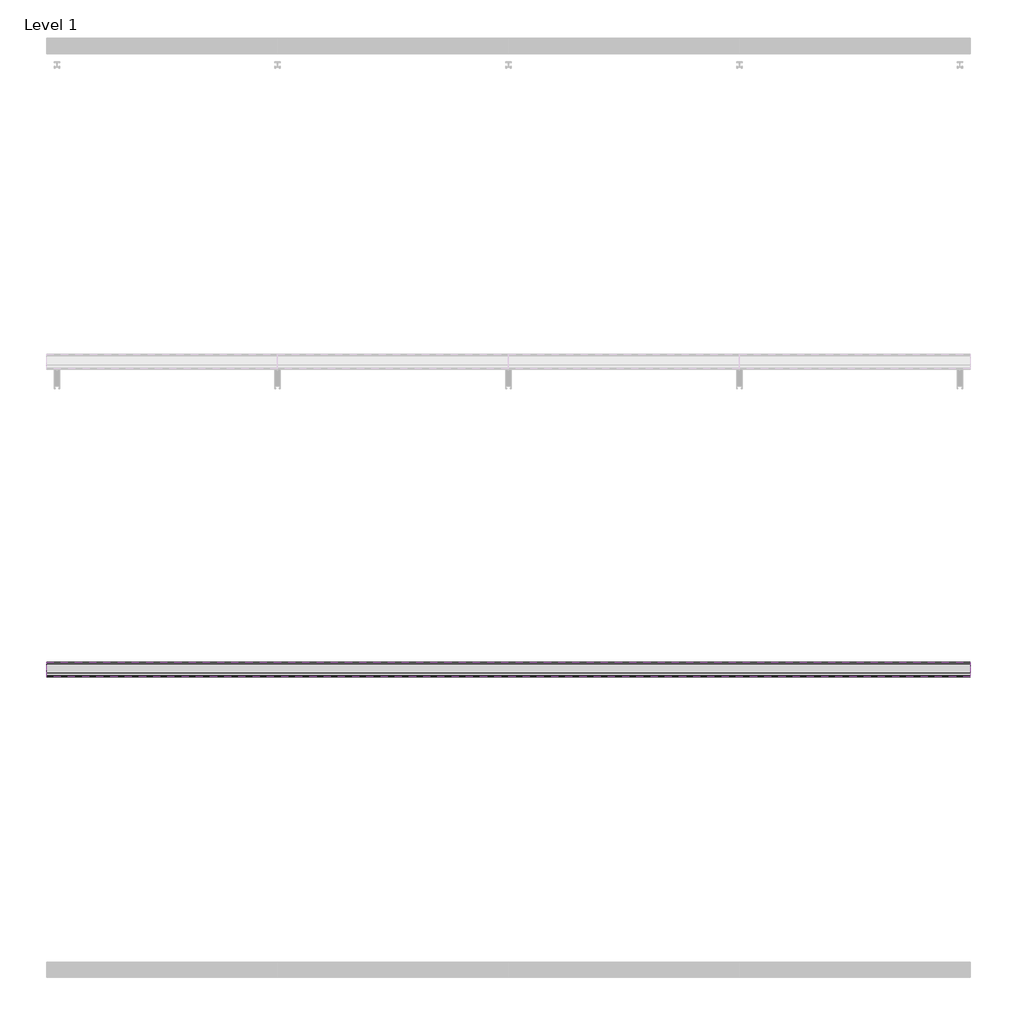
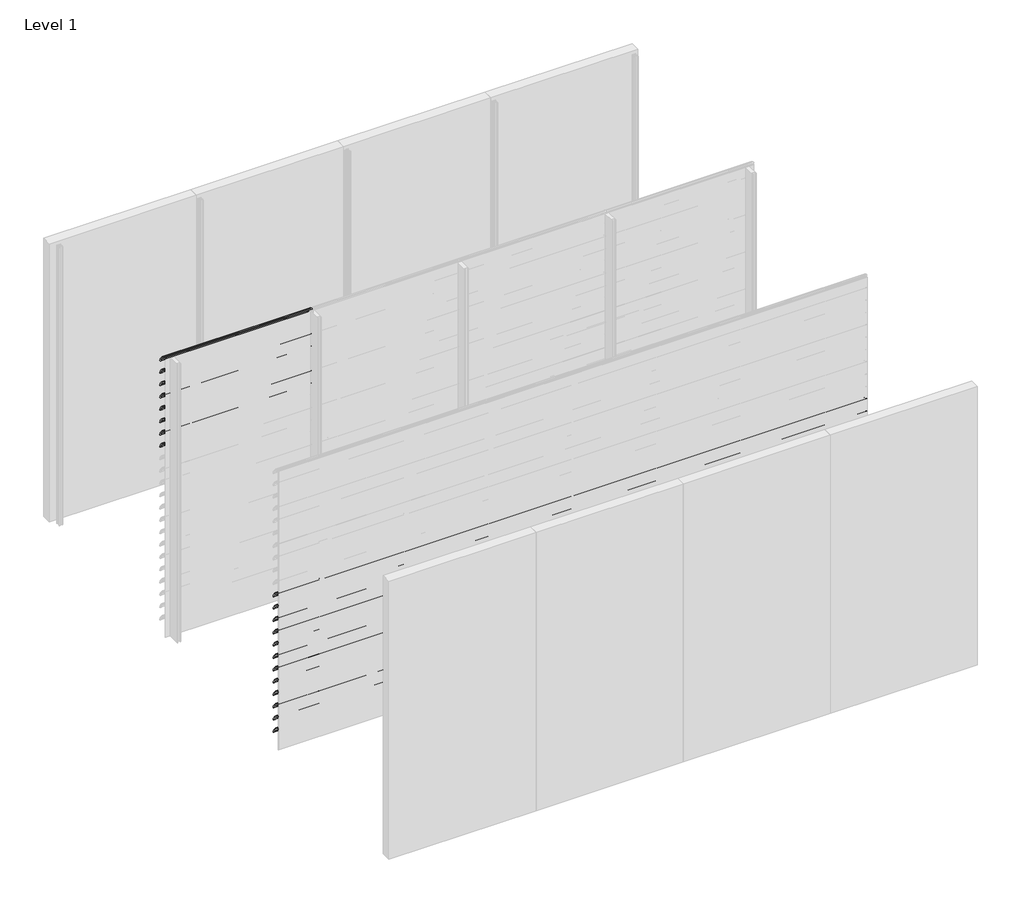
# One storey, part 9 of 57: 20 proxies.
"""IFC4 building model written with IfcOpenShell, lengths in millimetres."""

from ifc_helpers import new_model, si_unit, point, frame, frame_2d, origin, place, context, project, spatial, polyline, circle_curve, trimmed, segment, composite_curve, outline, extrude, element, save

model = new_model("IFC4")

# Units and contexts
model_context = context("Model", 3, world=origin())
ifc_project = project(units=[si_unit("LENGTHUNIT", "METRE", prefix="MILLI")], contexts=[model_context])

# Site, building, storey
site = spatial("IfcSite", under=ifc_project)
building = spatial("IfcBuilding", under=site)
storey = spatial("IfcBuildingStorey", under=building, Name="Level 1", Elevation=0.0)

# Proxies
placement = place(None, origin())
element("IfcBuildingElementProxy", 1, Name="Wall Sweeps", at=placement, inside=storey, context=model_context, shape_type="SweptSolid", body=[
    extrude(outline(composite_curve([segment(trimmed(circle_curve(frame_2d((-47993.7822526, 3016.4913792)), 4.2177474), [point((-47989.6985606, 3017.5462976))], [point((-47993.7822526, 3020.7091266))], False, "CARTESIAN"), True, "CONTINUOUS"), segment(trimmed(circle_curve(frame_2d((-48018.7150834, 2918.2536312)), 105.4456002), [point((-47993.7822526, 3020.7091266))], [point((-47971.7914298, 3012.6832099))], False, "CARTESIAN"), True, "CONTINUOUS"), segment(trimmed(circle_curve(frame_2d((-48061.7199745, 2864.0352476)), 173.7335887), [point((-47971.7914298, 3012.6832099))], [point((-47913.0720121, 2953.9637922))], False, "CARTESIAN"), True, "CONTINUOUS"), segment(trimmed(circle_curve(frame_2d((-48004.9297178, 2902.1860314)), 105.4456002), [point((-47913.0720121, 2953.9637922))], [point((-47903.6249616, 2931.4455765))], False, "CARTESIAN"), True, "CONTINUOUS"), segment(trimmed(circle_curve(frame_2d((-47907.809737, 2930.3307305)), 4.3307305), [point((-47903.6249616, 2931.4455765))], [point((-47909.0769196, 2926.189538))], False, "CARTESIAN"), True, "CONTINUOUS"), segment(polyline([(-47909.0769196, 2926.189538), (-47934.7401984, 2950.9722783)]), True, "CONTINUOUS"), segment(trimmed(circle_curve(frame_2d((-47931.3879574, 2953.2977626)), 4.079877), [point((-47934.7401984, 2950.9722783))], [point((-47930.7310597, 2957.3244091))], False, "CARTESIAN"), True, "CONTINUOUS"), segment(trimmed(circle_curve(frame_2d((-48014.6665585, 2935.2544323)), 86.7885467), [point((-47930.7310597, 2957.3244091))], [point((-47942.3028351, 2983.1683485))], True, "CARTESIAN"), True, "CONTINUOUS"), segment(polyline([(-47942.3028351, 2983.1683485), (-47940.7230099, 2985.9046861)]), True, "CONTINUOUS"), segment(trimmed(circle_curve(frame_2d((-48061.7199745, 2864.0352476)), 171.7335887), [point((-47940.7230099, 2985.9046861))], [point((-47972.7555872, 3010.9289618))], True, "CARTESIAN"), True, "CONTINUOUS"), segment(trimmed(circle_curve(frame_2d((-48018.7150834, 2918.2536312)), 103.4456002), [point((-47972.7555872, 3010.9289618))], [point((-47989.6985606, 3017.5462976))], True, "CARTESIAN"), True, "CONTINUOUS")], self_intersect=False)), frame((0.0, 0.0, 0.0), z_axis=(1.0, 0.0, 0.0), x_axis=(0.0, 1.0, 0.0)), (0.0, 0.0, 1.0), 1500.0),
])
element("IfcBuildingElementProxy", 2, Name="Wall Sweeps", at=placement, inside=storey, context=model_context, shape_type="SweptSolid", body=[
    extrude(outline(composite_curve([segment(trimmed(circle_curve(frame_2d((-47993.7822526, 2883.4913792)), 4.2177474), [point((-47989.6985606, 2884.5462976))], [point((-47993.7822526, 2887.7091266))], False, "CARTESIAN"), True, "CONTINUOUS"), segment(trimmed(circle_curve(frame_2d((-48018.7150834, 2785.2536312)), 105.4456002), [point((-47993.7822526, 2887.7091266))], [point((-47971.7914298, 2879.6832099))], False, "CARTESIAN"), True, "CONTINUOUS"), segment(trimmed(circle_curve(frame_2d((-48061.7199745, 2731.0352476)), 173.7335887), [point((-47971.7914298, 2879.6832099))], [point((-47913.0720121, 2820.9637922))], False, "CARTESIAN"), True, "CONTINUOUS"), segment(trimmed(circle_curve(frame_2d((-48004.9297178, 2769.1860314)), 105.4456002), [point((-47913.0720121, 2820.9637922))], [point((-47903.6249616, 2798.4455765))], False, "CARTESIAN"), True, "CONTINUOUS"), segment(trimmed(circle_curve(frame_2d((-47907.809737, 2797.3307305)), 4.3307305), [point((-47903.6249616, 2798.4455765))], [point((-47909.0769196, 2793.189538))], False, "CARTESIAN"), True, "CONTINUOUS"), segment(polyline([(-47909.0769196, 2793.189538), (-47934.7401984, 2817.9722783)]), True, "CONTINUOUS"), segment(trimmed(circle_curve(frame_2d((-47931.3879574, 2820.2977626)), 4.079877), [point((-47934.7401984, 2817.9722783))], [point((-47930.7310597, 2824.3244091))], False, "CARTESIAN"), True, "CONTINUOUS"), segment(trimmed(circle_curve(frame_2d((-48014.6665585, 2802.2544323)), 86.7885467), [point((-47930.7310597, 2824.3244091))], [point((-47942.3028351, 2850.1683485))], True, "CARTESIAN"), True, "CONTINUOUS"), segment(polyline([(-47942.3028351, 2850.1683485), (-47940.7230099, 2852.9046861)]), True, "CONTINUOUS"), segment(trimmed(circle_curve(frame_2d((-48061.7199745, 2731.0352476)), 171.7335887), [point((-47940.7230099, 2852.9046861))], [point((-47972.7555872, 2877.9289618))], True, "CARTESIAN"), True, "CONTINUOUS"), segment(trimmed(circle_curve(frame_2d((-48018.7150834, 2785.2536312)), 103.4456002), [point((-47972.7555872, 2877.9289618))], [point((-47989.6985606, 2884.5462976))], True, "CARTESIAN"), True, "CONTINUOUS")], self_intersect=False)), frame((0.0, 0.0, 0.0), z_axis=(1.0, 0.0, 0.0), x_axis=(0.0, 1.0, 0.0)), (0.0, 0.0, 1.0), 1500.0),
])
element("IfcBuildingElementProxy", 3, Name="Wall Sweeps", at=placement, inside=storey, context=model_context, shape_type="SweptSolid", body=[
    extrude(outline(composite_curve([segment(trimmed(circle_curve(frame_2d((-47993.7822526, 2750.4913792)), 4.2177474), [point((-47989.6985606, 2751.5462976))], [point((-47993.7822526, 2754.7091266))], False, "CARTESIAN"), True, "CONTINUOUS"), segment(trimmed(circle_curve(frame_2d((-48018.7150834, 2652.2536312)), 105.4456002), [point((-47993.7822526, 2754.7091266))], [point((-47971.7914298, 2746.6832099))], False, "CARTESIAN"), True, "CONTINUOUS"), segment(trimmed(circle_curve(frame_2d((-48061.7199745, 2598.0352476)), 173.7335887), [point((-47971.7914298, 2746.6832099))], [point((-47913.0720121, 2687.9637922))], False, "CARTESIAN"), True, "CONTINUOUS"), segment(trimmed(circle_curve(frame_2d((-48004.9297178, 2636.1860314)), 105.4456002), [point((-47913.0720121, 2687.9637922))], [point((-47903.6249616, 2665.4455765))], False, "CARTESIAN"), True, "CONTINUOUS"), segment(trimmed(circle_curve(frame_2d((-47907.809737, 2664.3307305)), 4.3307305), [point((-47903.6249616, 2665.4455765))], [point((-47909.0769196, 2660.189538))], False, "CARTESIAN"), True, "CONTINUOUS"), segment(polyline([(-47909.0769196, 2660.189538), (-47934.7401984, 2684.9722783)]), True, "CONTINUOUS"), segment(trimmed(circle_curve(frame_2d((-47931.3879574, 2687.2977626)), 4.079877), [point((-47934.7401984, 2684.9722783))], [point((-47930.7310597, 2691.3244091))], False, "CARTESIAN"), True, "CONTINUOUS"), segment(trimmed(circle_curve(frame_2d((-48014.6665585, 2669.2544323)), 86.7885467), [point((-47930.7310597, 2691.3244091))], [point((-47942.3028351, 2717.1683485))], True, "CARTESIAN"), True, "CONTINUOUS"), segment(polyline([(-47942.3028351, 2717.1683485), (-47940.7230099, 2719.9046861)]), True, "CONTINUOUS"), segment(trimmed(circle_curve(frame_2d((-48061.7199745, 2598.0352476)), 171.7335887), [point((-47940.7230099, 2719.9046861))], [point((-47972.7555872, 2744.9289618))], True, "CARTESIAN"), True, "CONTINUOUS"), segment(trimmed(circle_curve(frame_2d((-48018.7150834, 2652.2536312)), 103.4456002), [point((-47972.7555872, 2744.9289618))], [point((-47989.6985606, 2751.5462976))], True, "CARTESIAN"), True, "CONTINUOUS")], self_intersect=False)), frame((0.0, 0.0, 0.0), z_axis=(1.0, 0.0, 0.0), x_axis=(0.0, 1.0, 0.0)), (0.0, 0.0, 1.0), 1500.0),
])
element("IfcBuildingElementProxy", 4, Name="Wall Sweeps", at=placement, inside=storey, context=model_context, shape_type="SweptSolid", body=[
    extrude(outline(composite_curve([segment(trimmed(circle_curve(frame_2d((-47993.7822526, 2617.4913792)), 4.2177474), [point((-47989.6985606, 2618.5462976))], [point((-47993.7822526, 2621.7091266))], False, "CARTESIAN"), True, "CONTINUOUS"), segment(trimmed(circle_curve(frame_2d((-48018.7150834, 2519.2536312)), 105.4456002), [point((-47993.7822526, 2621.7091266))], [point((-47971.7914298, 2613.6832099))], False, "CARTESIAN"), True, "CONTINUOUS"), segment(trimmed(circle_curve(frame_2d((-48061.7199745, 2465.0352476)), 173.7335887), [point((-47971.7914298, 2613.6832099))], [point((-47913.0720121, 2554.9637922))], False, "CARTESIAN"), True, "CONTINUOUS"), segment(trimmed(circle_curve(frame_2d((-48004.9297178, 2503.1860314)), 105.4456002), [point((-47913.0720121, 2554.9637922))], [point((-47903.6249616, 2532.4455765))], False, "CARTESIAN"), True, "CONTINUOUS"), segment(trimmed(circle_curve(frame_2d((-47907.809737, 2531.3307305)), 4.3307305), [point((-47903.6249616, 2532.4455765))], [point((-47909.0769196, 2527.189538))], False, "CARTESIAN"), True, "CONTINUOUS"), segment(polyline([(-47909.0769196, 2527.189538), (-47934.7401984, 2551.9722783)]), True, "CONTINUOUS"), segment(trimmed(circle_curve(frame_2d((-47931.3879574, 2554.2977626)), 4.079877), [point((-47934.7401984, 2551.9722783))], [point((-47930.7310597, 2558.3244091))], False, "CARTESIAN"), True, "CONTINUOUS"), segment(trimmed(circle_curve(frame_2d((-48014.6665585, 2536.2544323)), 86.7885467), [point((-47930.7310597, 2558.3244091))], [point((-47942.3028351, 2584.1683485))], True, "CARTESIAN"), True, "CONTINUOUS"), segment(polyline([(-47942.3028351, 2584.1683485), (-47940.7230099, 2586.9046861)]), True, "CONTINUOUS"), segment(trimmed(circle_curve(frame_2d((-48061.7199745, 2465.0352476)), 171.7335887), [point((-47940.7230099, 2586.9046861))], [point((-47972.7555872, 2611.9289618))], True, "CARTESIAN"), True, "CONTINUOUS"), segment(trimmed(circle_curve(frame_2d((-48018.7150834, 2519.2536312)), 103.4456002), [point((-47972.7555872, 2611.9289618))], [point((-47989.6985606, 2618.5462976))], True, "CARTESIAN"), True, "CONTINUOUS")], self_intersect=False)), frame((0.0, 0.0, 0.0), z_axis=(1.0, 0.0, 0.0), x_axis=(0.0, 1.0, 0.0)), (0.0, 0.0, 1.0), 1500.0),
])
element("IfcBuildingElementProxy", 5, Name="Wall Sweeps", at=placement, inside=storey, context=model_context, shape_type="SweptSolid", body=[
    extrude(outline(composite_curve([segment(trimmed(circle_curve(frame_2d((-47993.7822526, 2484.4913792)), 4.2177474), [point((-47989.6985606, 2485.5462976))], [point((-47993.7822526, 2488.7091266))], False, "CARTESIAN"), True, "CONTINUOUS"), segment(trimmed(circle_curve(frame_2d((-48018.7150834, 2386.2536312)), 105.4456002), [point((-47993.7822526, 2488.7091266))], [point((-47971.7914298, 2480.6832099))], False, "CARTESIAN"), True, "CONTINUOUS"), segment(trimmed(circle_curve(frame_2d((-48061.7199745, 2332.0352476)), 173.7335887), [point((-47971.7914298, 2480.6832099))], [point((-47913.0720121, 2421.9637922))], False, "CARTESIAN"), True, "CONTINUOUS"), segment(trimmed(circle_curve(frame_2d((-48004.9297178, 2370.1860314)), 105.4456002), [point((-47913.0720121, 2421.9637922))], [point((-47903.6249616, 2399.4455765))], False, "CARTESIAN"), True, "CONTINUOUS"), segment(trimmed(circle_curve(frame_2d((-47907.809737, 2398.3307305)), 4.3307305), [point((-47903.6249616, 2399.4455765))], [point((-47909.0769196, 2394.189538))], False, "CARTESIAN"), True, "CONTINUOUS"), segment(polyline([(-47909.0769196, 2394.189538), (-47934.7401984, 2418.9722783)]), True, "CONTINUOUS"), segment(trimmed(circle_curve(frame_2d((-47931.3879574, 2421.2977626)), 4.079877), [point((-47934.7401984, 2418.9722783))], [point((-47930.7310597, 2425.3244091))], False, "CARTESIAN"), True, "CONTINUOUS"), segment(trimmed(circle_curve(frame_2d((-48014.6665585, 2403.2544323)), 86.7885467), [point((-47930.7310597, 2425.3244091))], [point((-47942.3028351, 2451.1683485))], True, "CARTESIAN"), True, "CONTINUOUS"), segment(polyline([(-47942.3028351, 2451.1683485), (-47940.7230099, 2453.9046861)]), True, "CONTINUOUS"), segment(trimmed(circle_curve(frame_2d((-48061.7199745, 2332.0352476)), 171.7335887), [point((-47940.7230099, 2453.9046861))], [point((-47972.7555872, 2478.9289618))], True, "CARTESIAN"), True, "CONTINUOUS"), segment(trimmed(circle_curve(frame_2d((-48018.7150834, 2386.2536312)), 103.4456002), [point((-47972.7555872, 2478.9289618))], [point((-47989.6985606, 2485.5462976))], True, "CARTESIAN"), True, "CONTINUOUS")], self_intersect=False)), frame((0.0, 0.0, 0.0), z_axis=(1.0, 0.0, 0.0), x_axis=(0.0, 1.0, 0.0)), (0.0, 0.0, 1.0), 1500.0),
])
element("IfcBuildingElementProxy", 6, Name="Wall Sweeps", at=placement, inside=storey, context=model_context, shape_type="SweptSolid", body=[
    extrude(outline(composite_curve([segment(trimmed(circle_curve(frame_2d((-47993.7822526, 2351.4913792)), 4.2177474), [point((-47989.6985606, 2352.5462976))], [point((-47993.7822526, 2355.7091266))], False, "CARTESIAN"), True, "CONTINUOUS"), segment(trimmed(circle_curve(frame_2d((-48018.7150834, 2253.2536312)), 105.4456002), [point((-47993.7822526, 2355.7091266))], [point((-47971.7914298, 2347.6832099))], False, "CARTESIAN"), True, "CONTINUOUS"), segment(trimmed(circle_curve(frame_2d((-48061.7199745, 2199.0352476)), 173.7335887), [point((-47971.7914298, 2347.6832099))], [point((-47913.0720121, 2288.9637922))], False, "CARTESIAN"), True, "CONTINUOUS"), segment(trimmed(circle_curve(frame_2d((-48004.9297178, 2237.1860314)), 105.4456002), [point((-47913.0720121, 2288.9637922))], [point((-47903.6249616, 2266.4455765))], False, "CARTESIAN"), True, "CONTINUOUS"), segment(trimmed(circle_curve(frame_2d((-47907.809737, 2265.3307305)), 4.3307305), [point((-47903.6249616, 2266.4455765))], [point((-47909.0769196, 2261.189538))], False, "CARTESIAN"), True, "CONTINUOUS"), segment(polyline([(-47909.0769196, 2261.189538), (-47934.7401984, 2285.9722783)]), True, "CONTINUOUS"), segment(trimmed(circle_curve(frame_2d((-47931.3879574, 2288.2977626)), 4.079877), [point((-47934.7401984, 2285.9722783))], [point((-47930.7310597, 2292.3244091))], False, "CARTESIAN"), True, "CONTINUOUS"), segment(trimmed(circle_curve(frame_2d((-48014.6665585, 2270.2544323)), 86.7885467), [point((-47930.7310597, 2292.3244091))], [point((-47942.3028351, 2318.1683485))], True, "CARTESIAN"), True, "CONTINUOUS"), segment(polyline([(-47942.3028351, 2318.1683485), (-47940.7230099, 2320.9046861)]), True, "CONTINUOUS"), segment(trimmed(circle_curve(frame_2d((-48061.7199745, 2199.0352476)), 171.7335887), [point((-47940.7230099, 2320.9046861))], [point((-47972.7555872, 2345.9289618))], True, "CARTESIAN"), True, "CONTINUOUS"), segment(trimmed(circle_curve(frame_2d((-48018.7150834, 2253.2536312)), 103.4456002), [point((-47972.7555872, 2345.9289618))], [point((-47989.6985606, 2352.5462976))], True, "CARTESIAN"), True, "CONTINUOUS")], self_intersect=False)), frame((0.0, 0.0, 0.0), z_axis=(1.0, 0.0, 0.0), x_axis=(0.0, 1.0, 0.0)), (0.0, 0.0, 1.0), 1500.0),
])
element("IfcBuildingElementProxy", 7, Name="Wall Sweeps", at=placement, inside=storey, context=model_context, shape_type="SweptSolid", body=[
    extrude(outline(composite_curve([segment(trimmed(circle_curve(frame_2d((-47993.7822526, 2218.4913792)), 4.2177474), [point((-47989.6985606, 2219.5462976))], [point((-47993.7822526, 2222.7091266))], False, "CARTESIAN"), True, "CONTINUOUS"), segment(trimmed(circle_curve(frame_2d((-48018.7150834, 2120.2536312)), 105.4456002), [point((-47993.7822526, 2222.7091266))], [point((-47971.7914298, 2214.6832099))], False, "CARTESIAN"), True, "CONTINUOUS"), segment(trimmed(circle_curve(frame_2d((-48061.7199745, 2066.0352476)), 173.7335887), [point((-47971.7914298, 2214.6832099))], [point((-47913.0720121, 2155.9637922))], False, "CARTESIAN"), True, "CONTINUOUS"), segment(trimmed(circle_curve(frame_2d((-48004.9297178, 2104.1860314)), 105.4456002), [point((-47913.0720121, 2155.9637922))], [point((-47903.6249616, 2133.4455765))], False, "CARTESIAN"), True, "CONTINUOUS"), segment(trimmed(circle_curve(frame_2d((-47907.809737, 2132.3307305)), 4.3307305), [point((-47903.6249616, 2133.4455765))], [point((-47909.0769196, 2128.189538))], False, "CARTESIAN"), True, "CONTINUOUS"), segment(polyline([(-47909.0769196, 2128.189538), (-47934.7401984, 2152.9722783)]), True, "CONTINUOUS"), segment(trimmed(circle_curve(frame_2d((-47931.3879574, 2155.2977626)), 4.079877), [point((-47934.7401984, 2152.9722783))], [point((-47930.7310597, 2159.3244091))], False, "CARTESIAN"), True, "CONTINUOUS"), segment(trimmed(circle_curve(frame_2d((-48014.6665585, 2137.2544323)), 86.7885467), [point((-47930.7310597, 2159.3244091))], [point((-47942.3028351, 2185.1683485))], True, "CARTESIAN"), True, "CONTINUOUS"), segment(polyline([(-47942.3028351, 2185.1683485), (-47940.7230099, 2187.9046861)]), True, "CONTINUOUS"), segment(trimmed(circle_curve(frame_2d((-48061.7199745, 2066.0352476)), 171.7335887), [point((-47940.7230099, 2187.9046861))], [point((-47972.7555872, 2212.9289618))], True, "CARTESIAN"), True, "CONTINUOUS"), segment(trimmed(circle_curve(frame_2d((-48018.7150834, 2120.2536312)), 103.4456002), [point((-47972.7555872, 2212.9289618))], [point((-47989.6985606, 2219.5462976))], True, "CARTESIAN"), True, "CONTINUOUS")], self_intersect=False)), frame((0.0, 0.0, 0.0), z_axis=(1.0, 0.0, 0.0), x_axis=(0.0, 1.0, 0.0)), (0.0, 0.0, 1.0), 1500.0),
])
element("IfcBuildingElementProxy", 8, Name="Wall Sweeps", at=placement, inside=storey, context=model_context, shape_type="SweptSolid", body=[
    extrude(outline(composite_curve([segment(trimmed(circle_curve(frame_2d((-47993.7822526, 2085.4913792)), 4.2177474), [point((-47989.6985606, 2086.5462976))], [point((-47993.7822526, 2089.7091266))], False, "CARTESIAN"), True, "CONTINUOUS"), segment(trimmed(circle_curve(frame_2d((-48018.7150834, 1987.2536312)), 105.4456002), [point((-47993.7822526, 2089.7091266))], [point((-47971.7914298, 2081.6832099))], False, "CARTESIAN"), True, "CONTINUOUS"), segment(trimmed(circle_curve(frame_2d((-48061.7199745, 1933.0352476)), 173.7335887), [point((-47971.7914298, 2081.6832099))], [point((-47913.0720121, 2022.9637922))], False, "CARTESIAN"), True, "CONTINUOUS"), segment(trimmed(circle_curve(frame_2d((-48004.9297178, 1971.1860314)), 105.4456002), [point((-47913.0720121, 2022.9637922))], [point((-47903.6249616, 2000.4455765))], False, "CARTESIAN"), True, "CONTINUOUS"), segment(trimmed(circle_curve(frame_2d((-47907.809737, 1999.3307305)), 4.3307305), [point((-47903.6249616, 2000.4455765))], [point((-47909.0769196, 1995.189538))], False, "CARTESIAN"), True, "CONTINUOUS"), segment(polyline([(-47909.0769196, 1995.189538), (-47934.7401984, 2019.9722783)]), True, "CONTINUOUS"), segment(trimmed(circle_curve(frame_2d((-47931.3879574, 2022.2977626)), 4.079877), [point((-47934.7401984, 2019.9722783))], [point((-47930.7310597, 2026.3244091))], False, "CARTESIAN"), True, "CONTINUOUS"), segment(trimmed(circle_curve(frame_2d((-48014.6665585, 2004.2544323)), 86.7885467), [point((-47930.7310597, 2026.3244091))], [point((-47942.3028351, 2052.1683485))], True, "CARTESIAN"), True, "CONTINUOUS"), segment(polyline([(-47942.3028351, 2052.1683485), (-47940.7230099, 2054.9046861)]), True, "CONTINUOUS"), segment(trimmed(circle_curve(frame_2d((-48061.7199745, 1933.0352476)), 171.7335887), [point((-47940.7230099, 2054.9046861))], [point((-47972.7555872, 2079.9289618))], True, "CARTESIAN"), True, "CONTINUOUS"), segment(trimmed(circle_curve(frame_2d((-48018.7150834, 1987.2536312)), 103.4456002), [point((-47972.7555872, 2079.9289618))], [point((-47989.6985606, 2086.5462976))], True, "CARTESIAN"), True, "CONTINUOUS")], self_intersect=False)), frame((0.0, 0.0, 0.0), z_axis=(1.0, 0.0, 0.0), x_axis=(0.0, 1.0, 0.0)), (0.0, 0.0, 1.0), 1500.0),
])
element("IfcBuildingElementProxy", 9, Name="Wall Sweeps", at=placement, inside=storey, context=model_context, shape_type="SweptSolid", body=[
    extrude(outline(composite_curve([segment(trimmed(circle_curve(frame_2d((-49993.7822526, 1686.4913792)), 4.2177474), [point((-49989.6985606, 1687.5462976))], [point((-49993.7822526, 1690.7091266))], False, "CARTESIAN"), True, "CONTINUOUS"), segment(trimmed(circle_curve(frame_2d((-50018.7150834, 1588.2536312)), 105.4456002), [point((-49993.7822526, 1690.7091266))], [point((-49971.7914298, 1682.6832099))], False, "CARTESIAN"), True, "CONTINUOUS"), segment(trimmed(circle_curve(frame_2d((-50061.7199745, 1534.0352476)), 173.7335887), [point((-49971.7914298, 1682.6832099))], [point((-49913.0720121, 1623.9637922))], False, "CARTESIAN"), True, "CONTINUOUS"), segment(trimmed(circle_curve(frame_2d((-50004.9297178, 1572.1860314)), 105.4456002), [point((-49913.0720121, 1623.9637922))], [point((-49903.6249616, 1601.4455765))], False, "CARTESIAN"), True, "CONTINUOUS"), segment(trimmed(circle_curve(frame_2d((-49907.809737, 1600.3307305)), 4.3307305), [point((-49903.6249616, 1601.4455765))], [point((-49909.0769196, 1596.189538))], False, "CARTESIAN"), True, "CONTINUOUS"), segment(polyline([(-49909.0769196, 1596.189538), (-49934.7401984, 1620.9722783)]), True, "CONTINUOUS"), segment(trimmed(circle_curve(frame_2d((-49931.3879574, 1623.2977626)), 4.079877), [point((-49934.7401984, 1620.9722783))], [point((-49930.7310597, 1627.3244091))], False, "CARTESIAN"), True, "CONTINUOUS"), segment(trimmed(circle_curve(frame_2d((-50014.6665585, 1605.2544323)), 86.7885467), [point((-49930.7310597, 1627.3244091))], [point((-49942.3028351, 1653.1683485))], True, "CARTESIAN"), True, "CONTINUOUS"), segment(polyline([(-49942.3028351, 1653.1683485), (-49940.7230099, 1655.9046861)]), True, "CONTINUOUS"), segment(trimmed(circle_curve(frame_2d((-50061.7199745, 1534.0352476)), 171.7335887), [point((-49940.7230099, 1655.9046861))], [point((-49972.7555872, 1680.9289618))], True, "CARTESIAN"), True, "CONTINUOUS"), segment(trimmed(circle_curve(frame_2d((-50018.7150834, 1588.2536312)), 103.4456002), [point((-49972.7555872, 1680.9289618))], [point((-49989.6985606, 1687.5462976))], True, "CARTESIAN"), True, "CONTINUOUS")], self_intersect=False)), frame((0.0, 0.0, 0.0), z_axis=(1.0, 0.0, 0.0), x_axis=(0.0, 1.0, 0.0)), (0.0, 0.0, 1.0), 6000.0),
])
element("IfcBuildingElementProxy", 10, Name="Wall Sweeps", at=placement, inside=storey, context=model_context, shape_type="SweptSolid", body=[
    extrude(outline(composite_curve([segment(trimmed(circle_curve(frame_2d((-49993.7822526, 1553.4913792)), 4.2177474), [point((-49989.6985606, 1554.5462976))], [point((-49993.7822526, 1557.7091266))], False, "CARTESIAN"), True, "CONTINUOUS"), segment(trimmed(circle_curve(frame_2d((-50018.7150834, 1455.2536312)), 105.4456002), [point((-49993.7822526, 1557.7091266))], [point((-49971.7914298, 1549.6832099))], False, "CARTESIAN"), True, "CONTINUOUS"), segment(trimmed(circle_curve(frame_2d((-50061.7199745, 1401.0352476)), 173.7335887), [point((-49971.7914298, 1549.6832099))], [point((-49913.0720121, 1490.9637922))], False, "CARTESIAN"), True, "CONTINUOUS"), segment(trimmed(circle_curve(frame_2d((-50004.9297178, 1439.1860314)), 105.4456002), [point((-49913.0720121, 1490.9637922))], [point((-49903.6249616, 1468.4455765))], False, "CARTESIAN"), True, "CONTINUOUS"), segment(trimmed(circle_curve(frame_2d((-49907.809737, 1467.3307305)), 4.3307305), [point((-49903.6249616, 1468.4455765))], [point((-49909.0769196, 1463.189538))], False, "CARTESIAN"), True, "CONTINUOUS"), segment(polyline([(-49909.0769196, 1463.189538), (-49934.7401984, 1487.9722783)]), True, "CONTINUOUS"), segment(trimmed(circle_curve(frame_2d((-49931.3879574, 1490.2977626)), 4.079877), [point((-49934.7401984, 1487.9722783))], [point((-49930.7310597, 1494.3244091))], False, "CARTESIAN"), True, "CONTINUOUS"), segment(trimmed(circle_curve(frame_2d((-50014.6665585, 1472.2544323)), 86.7885467), [point((-49930.7310597, 1494.3244091))], [point((-49942.3028351, 1520.1683485))], True, "CARTESIAN"), True, "CONTINUOUS"), segment(polyline([(-49942.3028351, 1520.1683485), (-49940.7230099, 1522.9046861)]), True, "CONTINUOUS"), segment(trimmed(circle_curve(frame_2d((-50061.7199745, 1401.0352476)), 171.7335887), [point((-49940.7230099, 1522.9046861))], [point((-49972.7555872, 1547.9289618))], True, "CARTESIAN"), True, "CONTINUOUS"), segment(trimmed(circle_curve(frame_2d((-50018.7150834, 1455.2536312)), 103.4456002), [point((-49972.7555872, 1547.9289618))], [point((-49989.6985606, 1554.5462976))], True, "CARTESIAN"), True, "CONTINUOUS")], self_intersect=False)), frame((0.0, 0.0, 0.0), z_axis=(1.0, 0.0, 0.0), x_axis=(0.0, 1.0, 0.0)), (0.0, 0.0, 1.0), 6000.0),
])
element("IfcBuildingElementProxy", 11, Name="Wall Sweeps", at=placement, inside=storey, context=model_context, shape_type="SweptSolid", body=[
    extrude(outline(composite_curve([segment(trimmed(circle_curve(frame_2d((-49993.7822526, 1420.4913792)), 4.2177474), [point((-49989.6985606, 1421.5462976))], [point((-49993.7822526, 1424.7091266))], False, "CARTESIAN"), True, "CONTINUOUS"), segment(trimmed(circle_curve(frame_2d((-50018.7150834, 1322.2536312)), 105.4456002), [point((-49993.7822526, 1424.7091266))], [point((-49971.7914298, 1416.6832099))], False, "CARTESIAN"), True, "CONTINUOUS"), segment(trimmed(circle_curve(frame_2d((-50061.7199745, 1268.0352476)), 173.7335887), [point((-49971.7914298, 1416.6832099))], [point((-49913.0720121, 1357.9637922))], False, "CARTESIAN"), True, "CONTINUOUS"), segment(trimmed(circle_curve(frame_2d((-50004.9297178, 1306.1860314)), 105.4456002), [point((-49913.0720121, 1357.9637922))], [point((-49903.6249616, 1335.4455765))], False, "CARTESIAN"), True, "CONTINUOUS"), segment(trimmed(circle_curve(frame_2d((-49907.809737, 1334.3307305)), 4.3307305), [point((-49903.6249616, 1335.4455765))], [point((-49909.0769196, 1330.189538))], False, "CARTESIAN"), True, "CONTINUOUS"), segment(polyline([(-49909.0769196, 1330.189538), (-49934.7401984, 1354.9722783)]), True, "CONTINUOUS"), segment(trimmed(circle_curve(frame_2d((-49931.3879574, 1357.2977626)), 4.079877), [point((-49934.7401984, 1354.9722783))], [point((-49930.7310597, 1361.3244091))], False, "CARTESIAN"), True, "CONTINUOUS"), segment(trimmed(circle_curve(frame_2d((-50014.6665585, 1339.2544323)), 86.7885467), [point((-49930.7310597, 1361.3244091))], [point((-49942.3028351, 1387.1683485))], True, "CARTESIAN"), True, "CONTINUOUS"), segment(polyline([(-49942.3028351, 1387.1683485), (-49940.7230099, 1389.9046861)]), True, "CONTINUOUS"), segment(trimmed(circle_curve(frame_2d((-50061.7199745, 1268.0352476)), 171.7335887), [point((-49940.7230099, 1389.9046861))], [point((-49972.7555872, 1414.9289618))], True, "CARTESIAN"), True, "CONTINUOUS"), segment(trimmed(circle_curve(frame_2d((-50018.7150834, 1322.2536312)), 103.4456002), [point((-49972.7555872, 1414.9289618))], [point((-49989.6985606, 1421.5462976))], True, "CARTESIAN"), True, "CONTINUOUS")], self_intersect=False)), frame((0.0, 0.0, 0.0), z_axis=(1.0, 0.0, 0.0), x_axis=(0.0, 1.0, 0.0)), (0.0, 0.0, 1.0), 6000.0),
])
element("IfcBuildingElementProxy", 12, Name="Wall Sweeps", at=placement, inside=storey, context=model_context, shape_type="SweptSolid", body=[
    extrude(outline(composite_curve([segment(trimmed(circle_curve(frame_2d((-49993.7822526, 1287.4913792)), 4.2177474), [point((-49989.6985606, 1288.5462976))], [point((-49993.7822526, 1291.7091266))], False, "CARTESIAN"), True, "CONTINUOUS"), segment(trimmed(circle_curve(frame_2d((-50018.7150834, 1189.2536312)), 105.4456002), [point((-49993.7822526, 1291.7091266))], [point((-49971.7914298, 1283.6832099))], False, "CARTESIAN"), True, "CONTINUOUS"), segment(trimmed(circle_curve(frame_2d((-50061.7199745, 1135.0352476)), 173.7335887), [point((-49971.7914298, 1283.6832099))], [point((-49913.0720121, 1224.9637922))], False, "CARTESIAN"), True, "CONTINUOUS"), segment(trimmed(circle_curve(frame_2d((-50004.9297178, 1173.1860314)), 105.4456002), [point((-49913.0720121, 1224.9637922))], [point((-49903.6249616, 1202.4455765))], False, "CARTESIAN"), True, "CONTINUOUS"), segment(trimmed(circle_curve(frame_2d((-49907.809737, 1201.3307305)), 4.3307305), [point((-49903.6249616, 1202.4455765))], [point((-49909.0769196, 1197.189538))], False, "CARTESIAN"), True, "CONTINUOUS"), segment(polyline([(-49909.0769196, 1197.189538), (-49934.7401984, 1221.9722783)]), True, "CONTINUOUS"), segment(trimmed(circle_curve(frame_2d((-49931.3879574, 1224.2977626)), 4.079877), [point((-49934.7401984, 1221.9722783))], [point((-49930.7310597, 1228.3244091))], False, "CARTESIAN"), True, "CONTINUOUS"), segment(trimmed(circle_curve(frame_2d((-50014.6665585, 1206.2544323)), 86.7885467), [point((-49930.7310597, 1228.3244091))], [point((-49942.3028351, 1254.1683485))], True, "CARTESIAN"), True, "CONTINUOUS"), segment(polyline([(-49942.3028351, 1254.1683485), (-49940.7230099, 1256.9046861)]), True, "CONTINUOUS"), segment(trimmed(circle_curve(frame_2d((-50061.7199745, 1135.0352476)), 171.7335887), [point((-49940.7230099, 1256.9046861))], [point((-49972.7555872, 1281.9289618))], True, "CARTESIAN"), True, "CONTINUOUS"), segment(trimmed(circle_curve(frame_2d((-50018.7150834, 1189.2536312)), 103.4456002), [point((-49972.7555872, 1281.9289618))], [point((-49989.6985606, 1288.5462976))], True, "CARTESIAN"), True, "CONTINUOUS")], self_intersect=False)), frame((0.0, 0.0, 0.0), z_axis=(1.0, 0.0, 0.0), x_axis=(0.0, 1.0, 0.0)), (0.0, 0.0, 1.0), 6000.0),
])
element("IfcBuildingElementProxy", 13, Name="Wall Sweeps", at=placement, inside=storey, context=model_context, shape_type="SweptSolid", body=[
    extrude(outline(composite_curve([segment(trimmed(circle_curve(frame_2d((-49993.7822526, 1154.4913792)), 4.2177474), [point((-49989.6985606, 1155.5462976))], [point((-49993.7822526, 1158.7091266))], False, "CARTESIAN"), True, "CONTINUOUS"), segment(trimmed(circle_curve(frame_2d((-50018.7150834, 1056.2536312)), 105.4456002), [point((-49993.7822526, 1158.7091266))], [point((-49971.7914298, 1150.6832099))], False, "CARTESIAN"), True, "CONTINUOUS"), segment(trimmed(circle_curve(frame_2d((-50061.7199745, 1002.0352476)), 173.7335887), [point((-49971.7914298, 1150.6832099))], [point((-49913.0720121, 1091.9637922))], False, "CARTESIAN"), True, "CONTINUOUS"), segment(trimmed(circle_curve(frame_2d((-50004.9297178, 1040.1860314)), 105.4456002), [point((-49913.0720121, 1091.9637922))], [point((-49903.6249616, 1069.4455765))], False, "CARTESIAN"), True, "CONTINUOUS"), segment(trimmed(circle_curve(frame_2d((-49907.809737, 1068.3307305)), 4.3307305), [point((-49903.6249616, 1069.4455765))], [point((-49909.0769196, 1064.189538))], False, "CARTESIAN"), True, "CONTINUOUS"), segment(polyline([(-49909.0769196, 1064.189538), (-49934.7401984, 1088.9722783)]), True, "CONTINUOUS"), segment(trimmed(circle_curve(frame_2d((-49931.3879574, 1091.2977626)), 4.079877), [point((-49934.7401984, 1088.9722783))], [point((-49930.7310597, 1095.3244091))], False, "CARTESIAN"), True, "CONTINUOUS"), segment(trimmed(circle_curve(frame_2d((-50014.6665585, 1073.2544323)), 86.7885467), [point((-49930.7310597, 1095.3244091))], [point((-49942.3028351, 1121.1683485))], True, "CARTESIAN"), True, "CONTINUOUS"), segment(polyline([(-49942.3028351, 1121.1683485), (-49940.7230099, 1123.9046861)]), True, "CONTINUOUS"), segment(trimmed(circle_curve(frame_2d((-50061.7199745, 1002.0352476)), 171.7335887), [point((-49940.7230099, 1123.9046861))], [point((-49972.7555872, 1148.9289618))], True, "CARTESIAN"), True, "CONTINUOUS"), segment(trimmed(circle_curve(frame_2d((-50018.7150834, 1056.2536312)), 103.4456002), [point((-49972.7555872, 1148.9289618))], [point((-49989.6985606, 1155.5462976))], True, "CARTESIAN"), True, "CONTINUOUS")], self_intersect=False)), frame((0.0, 0.0, 0.0), z_axis=(1.0, 0.0, 0.0), x_axis=(0.0, 1.0, 0.0)), (0.0, 0.0, 1.0), 6000.0),
])
element("IfcBuildingElementProxy", 14, Name="Wall Sweeps", at=placement, inside=storey, context=model_context, shape_type="SweptSolid", body=[
    extrude(outline(composite_curve([segment(trimmed(circle_curve(frame_2d((-49993.7822526, 1021.4913792)), 4.2177474), [point((-49989.6985606, 1022.5462976))], [point((-49993.7822526, 1025.7091266))], False, "CARTESIAN"), True, "CONTINUOUS"), segment(trimmed(circle_curve(frame_2d((-50018.7150834, 923.2536312)), 105.4456002), [point((-49993.7822526, 1025.7091266))], [point((-49971.7914298, 1017.6832099))], False, "CARTESIAN"), True, "CONTINUOUS"), segment(trimmed(circle_curve(frame_2d((-50061.7199745, 869.0352476)), 173.7335887), [point((-49971.7914298, 1017.6832099))], [point((-49913.0720121, 958.9637922))], False, "CARTESIAN"), True, "CONTINUOUS"), segment(trimmed(circle_curve(frame_2d((-50004.9297178, 907.1860314)), 105.4456002), [point((-49913.0720121, 958.9637922))], [point((-49903.6249616, 936.4455765))], False, "CARTESIAN"), True, "CONTINUOUS"), segment(trimmed(circle_curve(frame_2d((-49907.809737, 935.3307305)), 4.3307305), [point((-49903.6249616, 936.4455765))], [point((-49909.0769196, 931.189538))], False, "CARTESIAN"), True, "CONTINUOUS"), segment(polyline([(-49909.0769196, 931.189538), (-49934.7401984, 955.9722783)]), True, "CONTINUOUS"), segment(trimmed(circle_curve(frame_2d((-49931.3879574, 958.2977626)), 4.079877), [point((-49934.7401984, 955.9722783))], [point((-49930.7310597, 962.3244091))], False, "CARTESIAN"), True, "CONTINUOUS"), segment(trimmed(circle_curve(frame_2d((-50014.6665585, 940.2544323)), 86.7885467), [point((-49930.7310597, 962.3244091))], [point((-49942.3028351, 988.1683485))], True, "CARTESIAN"), True, "CONTINUOUS"), segment(polyline([(-49942.3028351, 988.1683485), (-49940.7230099, 990.9046861)]), True, "CONTINUOUS"), segment(trimmed(circle_curve(frame_2d((-50061.7199745, 869.0352476)), 171.7335887), [point((-49940.7230099, 990.9046861))], [point((-49972.7555872, 1015.9289618))], True, "CARTESIAN"), True, "CONTINUOUS"), segment(trimmed(circle_curve(frame_2d((-50018.7150834, 923.2536312)), 103.4456002), [point((-49972.7555872, 1015.9289618))], [point((-49989.6985606, 1022.5462976))], True, "CARTESIAN"), True, "CONTINUOUS")], self_intersect=False)), frame((0.0, 0.0, 0.0), z_axis=(1.0, 0.0, 0.0), x_axis=(0.0, 1.0, 0.0)), (0.0, 0.0, 1.0), 6000.0),
])
element("IfcBuildingElementProxy", 15, Name="Wall Sweeps", at=placement, inside=storey, context=model_context, shape_type="SweptSolid", body=[
    extrude(outline(composite_curve([segment(trimmed(circle_curve(frame_2d((-49993.7822526, 888.4913792)), 4.2177474), [point((-49989.6985606, 889.5462976))], [point((-49993.7822526, 892.7091266))], False, "CARTESIAN"), True, "CONTINUOUS"), segment(trimmed(circle_curve(frame_2d((-50018.7150834, 790.2536312)), 105.4456002), [point((-49993.7822526, 892.7091266))], [point((-49971.7914298, 884.6832099))], False, "CARTESIAN"), True, "CONTINUOUS"), segment(trimmed(circle_curve(frame_2d((-50061.7199745, 736.0352476)), 173.7335887), [point((-49971.7914298, 884.6832099))], [point((-49913.0720121, 825.9637922))], False, "CARTESIAN"), True, "CONTINUOUS"), segment(trimmed(circle_curve(frame_2d((-50004.9297178, 774.1860314)), 105.4456002), [point((-49913.0720121, 825.9637922))], [point((-49903.6249616, 803.4455765))], False, "CARTESIAN"), True, "CONTINUOUS"), segment(trimmed(circle_curve(frame_2d((-49907.809737, 802.3307305)), 4.3307305), [point((-49903.6249616, 803.4455765))], [point((-49909.0769196, 798.189538))], False, "CARTESIAN"), True, "CONTINUOUS"), segment(polyline([(-49909.0769196, 798.189538), (-49934.7401984, 822.9722783)]), True, "CONTINUOUS"), segment(trimmed(circle_curve(frame_2d((-49931.3879574, 825.2977626)), 4.079877), [point((-49934.7401984, 822.9722783))], [point((-49930.7310597, 829.3244091))], False, "CARTESIAN"), True, "CONTINUOUS"), segment(trimmed(circle_curve(frame_2d((-50014.6665585, 807.2544323)), 86.7885467), [point((-49930.7310597, 829.3244091))], [point((-49942.3028351, 855.1683485))], True, "CARTESIAN"), True, "CONTINUOUS"), segment(polyline([(-49942.3028351, 855.1683485), (-49940.7230099, 857.9046861)]), True, "CONTINUOUS"), segment(trimmed(circle_curve(frame_2d((-50061.7199745, 736.0352476)), 171.7335887), [point((-49940.7230099, 857.9046861))], [point((-49972.7555872, 882.9289618))], True, "CARTESIAN"), True, "CONTINUOUS"), segment(trimmed(circle_curve(frame_2d((-50018.7150834, 790.2536312)), 103.4456002), [point((-49972.7555872, 882.9289618))], [point((-49989.6985606, 889.5462976))], True, "CARTESIAN"), True, "CONTINUOUS")], self_intersect=False)), frame((0.0, 0.0, 0.0), z_axis=(1.0, 0.0, 0.0), x_axis=(0.0, 1.0, 0.0)), (0.0, 0.0, 1.0), 6000.0),
])
element("IfcBuildingElementProxy", 16, Name="Wall Sweeps", at=placement, inside=storey, context=model_context, shape_type="SweptSolid", body=[
    extrude(outline(composite_curve([segment(trimmed(circle_curve(frame_2d((-49993.7822526, 755.4913792)), 4.2177474), [point((-49989.6985606, 756.5462976))], [point((-49993.7822526, 759.7091266))], False, "CARTESIAN"), True, "CONTINUOUS"), segment(trimmed(circle_curve(frame_2d((-50018.7150834, 657.2536312)), 105.4456002), [point((-49993.7822526, 759.7091266))], [point((-49971.7914298, 751.6832099))], False, "CARTESIAN"), True, "CONTINUOUS"), segment(trimmed(circle_curve(frame_2d((-50061.7199745, 603.0352476)), 173.7335887), [point((-49971.7914298, 751.6832099))], [point((-49913.0720121, 692.9637922))], False, "CARTESIAN"), True, "CONTINUOUS"), segment(trimmed(circle_curve(frame_2d((-50004.9297178, 641.1860314)), 105.4456002), [point((-49913.0720121, 692.9637922))], [point((-49903.6249616, 670.4455765))], False, "CARTESIAN"), True, "CONTINUOUS"), segment(trimmed(circle_curve(frame_2d((-49907.809737, 669.3307305)), 4.3307305), [point((-49903.6249616, 670.4455765))], [point((-49909.0769196, 665.189538))], False, "CARTESIAN"), True, "CONTINUOUS"), segment(polyline([(-49909.0769196, 665.189538), (-49934.7401984, 689.9722783)]), True, "CONTINUOUS"), segment(trimmed(circle_curve(frame_2d((-49931.3879574, 692.2977626)), 4.079877), [point((-49934.7401984, 689.9722783))], [point((-49930.7310597, 696.3244091))], False, "CARTESIAN"), True, "CONTINUOUS"), segment(trimmed(circle_curve(frame_2d((-50014.6665585, 674.2544323)), 86.7885467), [point((-49930.7310597, 696.3244091))], [point((-49942.3028351, 722.1683485))], True, "CARTESIAN"), True, "CONTINUOUS"), segment(polyline([(-49942.3028351, 722.1683485), (-49940.7230099, 724.9046861)]), True, "CONTINUOUS"), segment(trimmed(circle_curve(frame_2d((-50061.7199745, 603.0352476)), 171.7335887), [point((-49940.7230099, 724.9046861))], [point((-49972.7555872, 749.9289618))], True, "CARTESIAN"), True, "CONTINUOUS"), segment(trimmed(circle_curve(frame_2d((-50018.7150834, 657.2536312)), 103.4456002), [point((-49972.7555872, 749.9289618))], [point((-49989.6985606, 756.5462976))], True, "CARTESIAN"), True, "CONTINUOUS")], self_intersect=False)), frame((0.0, 0.0, 0.0), z_axis=(1.0, 0.0, 0.0), x_axis=(0.0, 1.0, 0.0)), (0.0, 0.0, 1.0), 6000.0),
])
element("IfcBuildingElementProxy", 17, Name="Wall Sweeps", at=placement, inside=storey, context=model_context, shape_type="SweptSolid", body=[
    extrude(outline(composite_curve([segment(trimmed(circle_curve(frame_2d((-49993.7822526, 622.4913792)), 4.2177474), [point((-49989.6985606, 623.5462976))], [point((-49993.7822526, 626.7091266))], False, "CARTESIAN"), True, "CONTINUOUS"), segment(trimmed(circle_curve(frame_2d((-50018.7150834, 524.2536312)), 105.4456002), [point((-49993.7822526, 626.7091266))], [point((-49971.7914298, 618.6832099))], False, "CARTESIAN"), True, "CONTINUOUS"), segment(trimmed(circle_curve(frame_2d((-50061.7199745, 470.0352476)), 173.7335887), [point((-49971.7914298, 618.6832099))], [point((-49913.0720121, 559.9637922))], False, "CARTESIAN"), True, "CONTINUOUS"), segment(trimmed(circle_curve(frame_2d((-50004.9297178, 508.1860314)), 105.4456002), [point((-49913.0720121, 559.9637922))], [point((-49903.6249616, 537.4455765))], False, "CARTESIAN"), True, "CONTINUOUS"), segment(trimmed(circle_curve(frame_2d((-49907.809737, 536.3307305)), 4.3307305), [point((-49903.6249616, 537.4455765))], [point((-49909.0769196, 532.189538))], False, "CARTESIAN"), True, "CONTINUOUS"), segment(polyline([(-49909.0769196, 532.189538), (-49934.7401984, 556.9722783)]), True, "CONTINUOUS"), segment(trimmed(circle_curve(frame_2d((-49931.3879574, 559.2977626)), 4.079877), [point((-49934.7401984, 556.9722783))], [point((-49930.7310597, 563.3244091))], False, "CARTESIAN"), True, "CONTINUOUS"), segment(trimmed(circle_curve(frame_2d((-50014.6665585, 541.2544323)), 86.7885467), [point((-49930.7310597, 563.3244091))], [point((-49942.3028351, 589.1683485))], True, "CARTESIAN"), True, "CONTINUOUS"), segment(polyline([(-49942.3028351, 589.1683485), (-49940.7230099, 591.9046861)]), True, "CONTINUOUS"), segment(trimmed(circle_curve(frame_2d((-50061.7199745, 470.0352476)), 171.7335887), [point((-49940.7230099, 591.9046861))], [point((-49972.7555872, 616.9289618))], True, "CARTESIAN"), True, "CONTINUOUS"), segment(trimmed(circle_curve(frame_2d((-50018.7150834, 524.2536312)), 103.4456002), [point((-49972.7555872, 616.9289618))], [point((-49989.6985606, 623.5462976))], True, "CARTESIAN"), True, "CONTINUOUS")], self_intersect=False)), frame((0.0, 0.0, 0.0), z_axis=(1.0, 0.0, 0.0), x_axis=(0.0, 1.0, 0.0)), (0.0, 0.0, 1.0), 6000.0),
])
element("IfcBuildingElementProxy", 18, Name="Wall Sweeps", at=placement, inside=storey, context=model_context, shape_type="SweptSolid", body=[
    extrude(outline(composite_curve([segment(trimmed(circle_curve(frame_2d((-49993.7822526, 489.4913792)), 4.2177474), [point((-49989.6985606, 490.5462976))], [point((-49993.7822526, 493.7091266))], False, "CARTESIAN"), True, "CONTINUOUS"), segment(trimmed(circle_curve(frame_2d((-50018.7150834, 391.2536312)), 105.4456002), [point((-49993.7822526, 493.7091266))], [point((-49971.7914298, 485.6832099))], False, "CARTESIAN"), True, "CONTINUOUS"), segment(trimmed(circle_curve(frame_2d((-50061.7199745, 337.0352476)), 173.7335887), [point((-49971.7914298, 485.6832099))], [point((-49913.0720121, 426.9637922))], False, "CARTESIAN"), True, "CONTINUOUS"), segment(trimmed(circle_curve(frame_2d((-50004.9297178, 375.1860314)), 105.4456002), [point((-49913.0720121, 426.9637922))], [point((-49903.6249616, 404.4455765))], False, "CARTESIAN"), True, "CONTINUOUS"), segment(trimmed(circle_curve(frame_2d((-49907.809737, 403.3307305)), 4.3307305), [point((-49903.6249616, 404.4455765))], [point((-49909.0769196, 399.189538))], False, "CARTESIAN"), True, "CONTINUOUS"), segment(polyline([(-49909.0769196, 399.189538), (-49934.7401984, 423.9722783)]), True, "CONTINUOUS"), segment(trimmed(circle_curve(frame_2d((-49931.3879574, 426.2977626)), 4.079877), [point((-49934.7401984, 423.9722783))], [point((-49930.7310597, 430.3244091))], False, "CARTESIAN"), True, "CONTINUOUS"), segment(trimmed(circle_curve(frame_2d((-50014.6665585, 408.2544323)), 86.7885467), [point((-49930.7310597, 430.3244091))], [point((-49942.3028351, 456.1683485))], True, "CARTESIAN"), True, "CONTINUOUS"), segment(polyline([(-49942.3028351, 456.1683485), (-49940.7230099, 458.9046861)]), True, "CONTINUOUS"), segment(trimmed(circle_curve(frame_2d((-50061.7199745, 337.0352476)), 171.7335887), [point((-49940.7230099, 458.9046861))], [point((-49972.7555872, 483.9289618))], True, "CARTESIAN"), True, "CONTINUOUS"), segment(trimmed(circle_curve(frame_2d((-50018.7150834, 391.2536312)), 103.4456002), [point((-49972.7555872, 483.9289618))], [point((-49989.6985606, 490.5462976))], True, "CARTESIAN"), True, "CONTINUOUS")], self_intersect=False)), frame((0.0, 0.0, 0.0), z_axis=(1.0, 0.0, 0.0), x_axis=(0.0, 1.0, 0.0)), (0.0, 0.0, 1.0), 6000.0),
])
element("IfcBuildingElementProxy", 19, Name="Wall Sweeps", at=placement, inside=storey, context=model_context, shape_type="SweptSolid", body=[
    extrude(outline(composite_curve([segment(trimmed(circle_curve(frame_2d((-49993.7822526, 356.4913792)), 4.2177474), [point((-49989.6985606, 357.5462976))], [point((-49993.7822526, 360.7091266))], False, "CARTESIAN"), True, "CONTINUOUS"), segment(trimmed(circle_curve(frame_2d((-50018.7150834, 258.2536312)), 105.4456002), [point((-49993.7822526, 360.7091266))], [point((-49971.7914298, 352.6832099))], False, "CARTESIAN"), True, "CONTINUOUS"), segment(trimmed(circle_curve(frame_2d((-50061.7199745, 204.0352476)), 173.7335887), [point((-49971.7914298, 352.6832099))], [point((-49913.0720121, 293.9637922))], False, "CARTESIAN"), True, "CONTINUOUS"), segment(trimmed(circle_curve(frame_2d((-50004.9297178, 242.1860314)), 105.4456002), [point((-49913.0720121, 293.9637922))], [point((-49903.6249616, 271.4455765))], False, "CARTESIAN"), True, "CONTINUOUS"), segment(trimmed(circle_curve(frame_2d((-49907.809737, 270.3307305)), 4.3307305), [point((-49903.6249616, 271.4455765))], [point((-49909.0769196, 266.189538))], False, "CARTESIAN"), True, "CONTINUOUS"), segment(polyline([(-49909.0769196, 266.189538), (-49934.7401984, 290.9722783)]), True, "CONTINUOUS"), segment(trimmed(circle_curve(frame_2d((-49931.3879574, 293.2977626)), 4.079877), [point((-49934.7401984, 290.9722783))], [point((-49930.7310597, 297.3244091))], False, "CARTESIAN"), True, "CONTINUOUS"), segment(trimmed(circle_curve(frame_2d((-50014.6665585, 275.2544323)), 86.7885467), [point((-49930.7310597, 297.3244091))], [point((-49942.3028351, 323.1683485))], True, "CARTESIAN"), True, "CONTINUOUS"), segment(polyline([(-49942.3028351, 323.1683485), (-49940.7230099, 325.9046861)]), True, "CONTINUOUS"), segment(trimmed(circle_curve(frame_2d((-50061.7199745, 204.0352476)), 171.7335887), [point((-49940.7230099, 325.9046861))], [point((-49972.7555872, 350.9289618))], True, "CARTESIAN"), True, "CONTINUOUS"), segment(trimmed(circle_curve(frame_2d((-50018.7150834, 258.2536312)), 103.4456002), [point((-49972.7555872, 350.9289618))], [point((-49989.6985606, 357.5462976))], True, "CARTESIAN"), True, "CONTINUOUS")], self_intersect=False)), frame((0.0, 0.0, 0.0), z_axis=(1.0, 0.0, 0.0), x_axis=(0.0, 1.0, 0.0)), (0.0, 0.0, 1.0), 6000.0),
])
element("IfcBuildingElementProxy", 20, Name="Wall Sweeps", at=placement, inside=storey, context=model_context, shape_type="SweptSolid", body=[
    extrude(outline(composite_curve([segment(trimmed(circle_curve(frame_2d((-49993.7822526, 223.4913792)), 4.2177474), [point((-49989.6985606, 224.5462976))], [point((-49993.7822526, 227.7091266))], False, "CARTESIAN"), True, "CONTINUOUS"), segment(trimmed(circle_curve(frame_2d((-50018.7150834, 125.2536312)), 105.4456002), [point((-49993.7822526, 227.7091266))], [point((-49971.7914298, 219.6832099))], False, "CARTESIAN"), True, "CONTINUOUS"), segment(trimmed(circle_curve(frame_2d((-50061.7199745, 71.0352476)), 173.7335887), [point((-49971.7914298, 219.6832099))], [point((-49913.0720121, 160.9637922))], False, "CARTESIAN"), True, "CONTINUOUS"), segment(trimmed(circle_curve(frame_2d((-50004.9297178, 109.1860314)), 105.4456002), [point((-49913.0720121, 160.9637922))], [point((-49903.6249616, 138.4455765))], False, "CARTESIAN"), True, "CONTINUOUS"), segment(trimmed(circle_curve(frame_2d((-49907.809737, 137.3307305)), 4.3307305), [point((-49903.6249616, 138.4455765))], [point((-49909.0769196, 133.189538))], False, "CARTESIAN"), True, "CONTINUOUS"), segment(polyline([(-49909.0769196, 133.189538), (-49934.7401984, 157.9722783)]), True, "CONTINUOUS"), segment(trimmed(circle_curve(frame_2d((-49931.3879574, 160.2977626)), 4.079877), [point((-49934.7401984, 157.9722783))], [point((-49930.7310597, 164.3244091))], False, "CARTESIAN"), True, "CONTINUOUS"), segment(trimmed(circle_curve(frame_2d((-50014.6665585, 142.2544323)), 86.7885467), [point((-49930.7310597, 164.3244091))], [point((-49942.3028351, 190.1683485))], True, "CARTESIAN"), True, "CONTINUOUS"), segment(polyline([(-49942.3028351, 190.1683485), (-49940.7230099, 192.9046861)]), True, "CONTINUOUS"), segment(trimmed(circle_curve(frame_2d((-50061.7199745, 71.0352476)), 171.7335887), [point((-49940.7230099, 192.9046861))], [point((-49972.7555872, 217.9289618))], True, "CARTESIAN"), True, "CONTINUOUS"), segment(trimmed(circle_curve(frame_2d((-50018.7150834, 125.2536312)), 103.4456002), [point((-49972.7555872, 217.9289618))], [point((-49989.6985606, 224.5462976))], True, "CARTESIAN"), True, "CONTINUOUS")], self_intersect=False)), frame((0.0, 0.0, 0.0), z_axis=(1.0, 0.0, 0.0), x_axis=(0.0, 1.0, 0.0)), (0.0, 0.0, 1.0), 6000.0),
])

save(model, "model.ifc")
